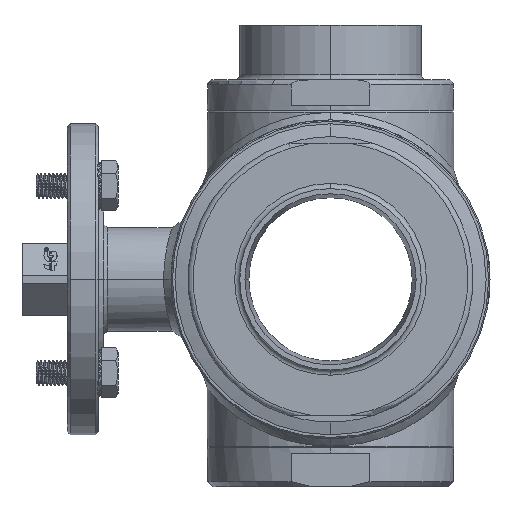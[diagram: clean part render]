
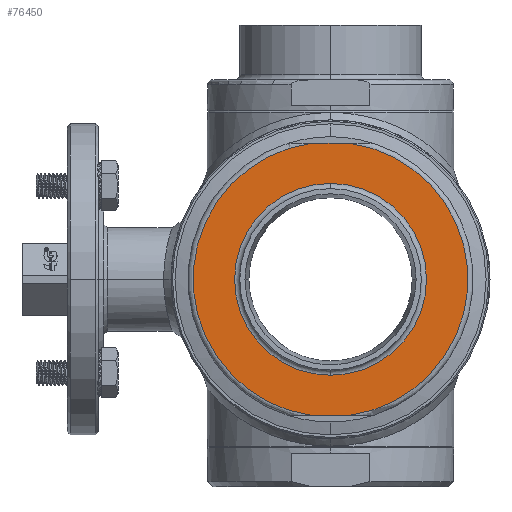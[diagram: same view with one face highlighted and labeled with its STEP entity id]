
A CAD part, left-side view. The second image highlights one B-rep face of the part: STEP entity #76450.
In plain terms, the highlighted planar face has unit normal (-1, 0, 0).
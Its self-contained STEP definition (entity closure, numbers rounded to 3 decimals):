
#5519=CARTESIAN_POINT('',(-77.,7.263,-52.5));
#5549=CARTESIAN_POINT('',(-77.,-7.263,-52.5));
#5568=CARTESIAN_POINT('',(-77.,0.,0.));
#5569=DIRECTION('',(-1.,0.,0.));
#5570=DIRECTION('',(0.,0.137,0.991));
#5571=AXIS2_PLACEMENT_3D('',#5568,#5569,#5570);
#5584=DIRECTION('',(0.,-1.,0.));
#5585=VECTOR('',#5584,14.526);
#5586=CARTESIAN_POINT('',(-77.,7.263,-52.5));
#5587=LINE('',#5586,#5585);
#5591=DIRECTION('',(0.,-1.,0.));
#5592=VECTOR('',#5591,14.526);
#5593=CARTESIAN_POINT('',(-77.,7.263,52.5));
#5594=LINE('',#5593,#5592);
#5606=CARTESIAN_POINT('',(-77.,0.,0.));
#5607=DIRECTION('',(-1.,0.,0.));
#5608=DIRECTION('',(0.,-0.137,-0.991));
#5609=AXIS2_PLACEMENT_3D('',#5606,#5607,#5608);
#5647=CARTESIAN_POINT('',(-77.,-7.263,52.5));
#5677=CARTESIAN_POINT('',(-77.,7.263,52.5));
#5711=CARTESIAN_POINT('',(-77.,0.,0.));
#5712=DIRECTION('',(-1.,0.,0.));
#5713=DIRECTION('',(0.,0.,-1.));
#5714=AXIS2_PLACEMENT_3D('',#5711,#5712,#5713);
#5727=CARTESIAN_POINT('',(-77.,0.,0.));
#5728=DIRECTION('',(-1.,0.,0.));
#5729=DIRECTION('',(0.,0.,1.));
#5730=AXIS2_PLACEMENT_3D('',#5727,#5728,#5729);
#68046=CARTESIAN_POINT('',(-77.,0.,-37.));
#68047=CARTESIAN_POINT('',(-77.,0.,37.));
#68048=VERTEX_POINT('',#68046);
#68049=VERTEX_POINT('',#68047);
#68055=VERTEX_POINT('',#5647);
#68057=VERTEX_POINT('',#5677);
#68059=VERTEX_POINT('',#5519);
#68061=VERTEX_POINT('',#5549);
#76431=CARTESIAN_POINT('',(-77.,0.,0.));
#76432=DIRECTION('',(-1.,0.,0.));
#76433=DIRECTION('',(0.,-1.,0.));
#76434=AXIS2_PLACEMENT_3D('',#76431,#76432,#76433);
#76435=PLANE('',#76434);
#76437=ORIENTED_EDGE('',*,*,#76436,.F.);
#76438=ORIENTED_EDGE('',*,*,#76404,.F.);
#76439=ORIENTED_EDGE('',*,*,#76421,.F.);
#76441=ORIENTED_EDGE('',*,*,#76440,.T.);
#76442=EDGE_LOOP('',(#76437,#76438,#76439,#76441));
#76443=FACE_OUTER_BOUND('',#76442,.F.);
#76445=ORIENTED_EDGE('',*,*,#76444,.T.);
#76447=ORIENTED_EDGE('',*,*,#76446,.T.);
#76448=EDGE_LOOP('',(#76445,#76447));
#76449=FACE_BOUND('',#76448,.F.);
#76450=ADVANCED_FACE('',(#76443,#76449),#76435,.T.);
#5572=CIRCLE('',#5571,53.);
#5610=CIRCLE('',#5609,53.);
#5715=CIRCLE('',#5714,37.);
#5731=CIRCLE('',#5730,37.);
#76404=EDGE_CURVE('',#68059,#68061,#5587,.T.);
#76421=EDGE_CURVE('',#68057,#68059,#5572,.T.);
#76436=EDGE_CURVE('',#68061,#68055,#5610,.T.);
#76440=EDGE_CURVE('',#68057,#68055,#5594,.T.);
#76444=EDGE_CURVE('',#68048,#68049,#5715,.T.);
#76446=EDGE_CURVE('',#68049,#68048,#5731,.T.);
